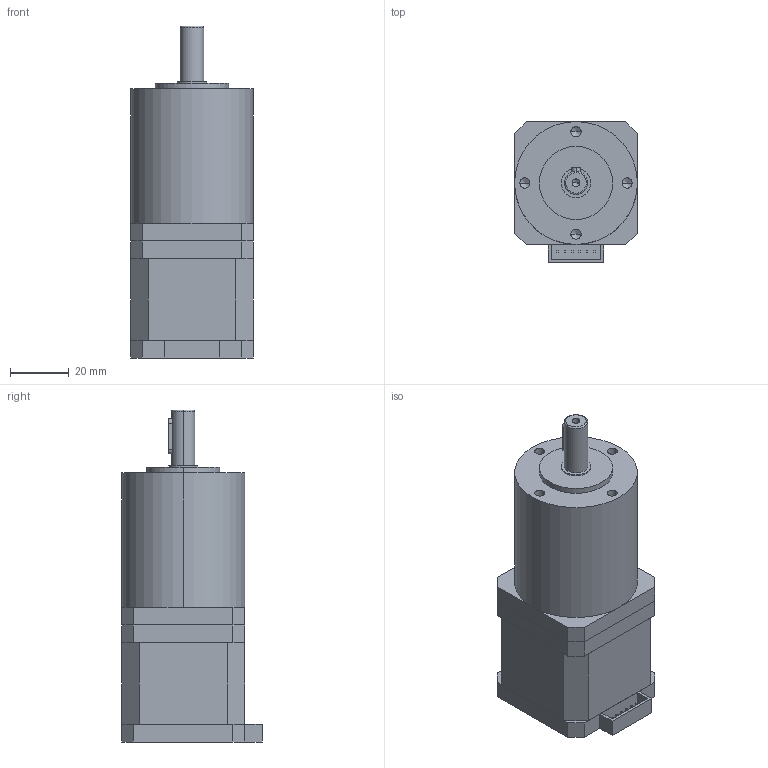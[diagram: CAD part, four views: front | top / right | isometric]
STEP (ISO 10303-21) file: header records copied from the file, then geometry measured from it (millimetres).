
FILE_DESCRIPTION (( 'STEP AP203' ), '1' );
FILE_NAME ('42PG040-D17-0440.STEP', '2019-10-12T01:07:19', ( 'China' ), ( 'Home' ), 'SwSTEP 2.0', 'SolidWorks 2016', '' );
FILE_SCHEMA (( 'CONFIG_CONTROL_DESIGN' ));
Length unit declared in the file: millimetre
Products named in the file (1): 42PG040-D17-0440
Bounding box: 42 x 48 x 113.5 mm (x, y, z)
Volume: 144342.6 mm3; surface area: 28684.6 mm2
Topology: 5 solids, 5 shells, 123 faces, 291 edges, 183 vertices
Faces by surface type: plane 90, cylinder 21, cone 10, bspline 2
Entity records: 3508 total; most frequent: CARTESIAN_POINT 624, DIRECTION 569, ORIENTED_EDGE 562, EDGE_CURVE 281, LINE 233, VECTOR 233, VERTEX_POINT 183, AXIS2_PLACEMENT_3D 168
